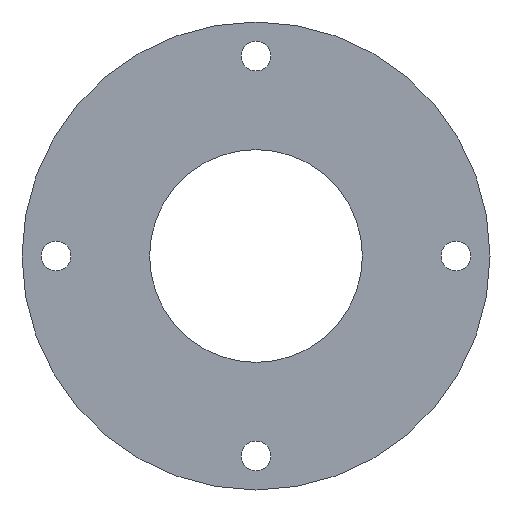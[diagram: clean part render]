
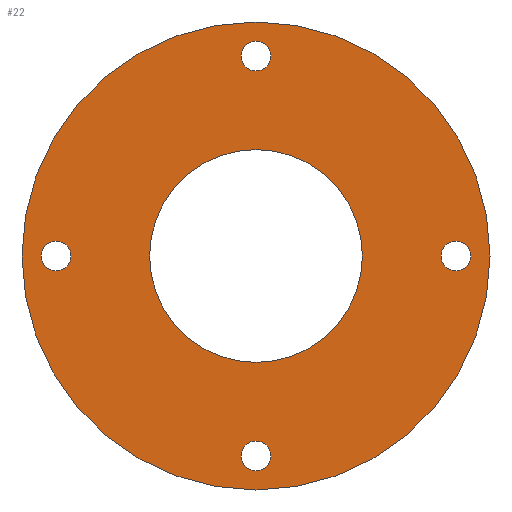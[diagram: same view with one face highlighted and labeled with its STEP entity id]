
A CAD part, left-side view. The second image highlights one B-rep face of the part: STEP entity #22.
In plain terms, the highlighted planar face has unit normal (-1, 0, 0).
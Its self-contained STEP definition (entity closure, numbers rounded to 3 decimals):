
#12 = EDGE_CURVE ( 'NONE', #667, #710, #207, .T. ) ;
#13 = EDGE_LOOP ( 'NONE', ( #20, #695 ) ) ;
#15 = EDGE_LOOP ( 'NONE', ( #717, #700 ) ) ;
#16 = EDGE_CURVE ( 'NONE', #644, #655, #155, .T. ) ;
#17 = EDGE_CURVE ( 'NONE', #713, #714, #193, .T. ) ;
#20 = ORIENTED_EDGE ( 'NONE', *, *, #12, .T. ) ;
#22 = ADVANCED_FACE ( 'NONE', ( #201, #206, #189, #196, #188, #187 ), #211, .F. ) ;
#23 = ORIENTED_EDGE ( 'NONE', *, *, #703, .T. ) ;
#39 = ORIENTED_EDGE ( 'NONE', *, *, #16, .T. ) ;
#41 = EDGE_LOOP ( 'NONE', ( #39, #23 ) ) ;
#66 = EDGE_CURVE ( 'NONE', #714, #713, #258, .T. ) ;
#67 = ORIENTED_EDGE ( 'NONE', *, *, #17, .F. ) ;
#68 = ORIENTED_EDGE ( 'NONE', *, *, #69, .T. ) ;
#69 = EDGE_CURVE ( 'NONE', #729, #726, #301, .T. ) ;
#79 = VERTEX_POINT ( 'NONE', #283 ) ;
#87 = EDGE_CURVE ( 'NONE', #88, #89, #276, .T. ) ;
#88 = VERTEX_POINT ( 'NONE', #327 ) ;
#89 = VERTEX_POINT ( 'NONE', #282 ) ;
#92 = VERTEX_POINT ( 'NONE', #328 ) ;
#93 = EDGE_CURVE ( 'NONE', #92, #79, #321, .T. ) ;
#101 = CIRCLE ( 'NONE', #136, 3.5 ) ;
#105 = DIRECTION ( 'NONE',  ( 0., 0., -1. ) ) ;
#106 = DIRECTION ( 'NONE',  ( 1., 0., 0. ) ) ;
#107 = CARTESIAN_POINT ( 'NONE',  ( 0., 0., -47. ) ) ;
#136 = AXIS2_PLACEMENT_3D ( 'NONE', #107, #106, #105 ) ;
#143 = EDGE_CURVE ( 'NONE', #710, #667, #382, .T. ) ;
#155 = CIRCLE ( 'NONE', #199, 3.5 ) ;
#166 = DIRECTION ( 'NONE',  ( 1., 0., 0. ) ) ;
#167 = CARTESIAN_POINT ( 'NONE',  ( 0., 47., 0. ) ) ;
#175 = DIRECTION ( 'NONE',  ( 0., 0., -1. ) ) ;
#182 = CARTESIAN_POINT ( 'NONE',  ( 0., 55., 0. ) ) ;
#187 = FACE_OUTER_BOUND ( 'NONE', #692, .T. ) ;
#188 = FACE_BOUND ( 'NONE', #696, .T. ) ;
#189 = FACE_BOUND ( 'NONE', #15, .T. ) ;
#190 = DIRECTION ( 'NONE',  ( 0., 0., 1. ) ) ;
#191 = DIRECTION ( 'NONE',  ( -1., 0., 0. ) ) ;
#192 = AXIS2_PLACEMENT_3D ( 'NONE', #210, #191, #190 ) ;
#193 = CIRCLE ( 'NONE', #192, 25. ) ;
#194 = AXIS2_PLACEMENT_3D ( 'NONE', #182, #166, #175 ) ;
#196 = FACE_BOUND ( 'NONE', #689, .T. ) ;
#197 = DIRECTION ( 'NONE',  ( 0., 0., -1. ) ) ;
#198 = DIRECTION ( 'NONE',  ( 1., 0., 0. ) ) ;
#199 = AXIS2_PLACEMENT_3D ( 'NONE', #167, #198, #197 ) ;
#201 = FACE_BOUND ( 'NONE', #41, .T. ) ;
#202 = DIRECTION ( 'NONE',  ( 0., 0., -1. ) ) ;
#203 = DIRECTION ( 'NONE',  ( 1., 0., 0. ) ) ;
#204 = CARTESIAN_POINT ( 'NONE',  ( 0., 0., 47. ) ) ;
#205 = AXIS2_PLACEMENT_3D ( 'NONE', #204, #203, #202 ) ;
#206 = FACE_BOUND ( 'NONE', #13, .T. ) ;
#207 = CIRCLE ( 'NONE', #205, 3.5 ) ;
#210 = CARTESIAN_POINT ( 'NONE',  ( 0., 0., 0. ) ) ;
#211 = PLANE ( 'NONE',  #194 ) ;
#243 = DIRECTION ( 'NONE',  ( 0., 0., 1. ) ) ;
#244 = DIRECTION ( 'NONE',  ( -1., 0., 0. ) ) ;
#245 = AXIS2_PLACEMENT_3D ( 'NONE', #257, #244, #243 ) ;
#251 = CARTESIAN_POINT ( 'NONE',  ( 0., 0., 0. ) ) ;
#257 = CARTESIAN_POINT ( 'NONE',  ( 0., 0., 0. ) ) ;
#258 = CIRCLE ( 'NONE', #245, 25. ) ;
#276 = CIRCLE ( 'NONE', #326, 3.5 ) ;
#282 = CARTESIAN_POINT ( 'NONE',  ( 0., -47., -3.5 ) ) ;
#283 = CARTESIAN_POINT ( 'NONE',  ( 0., 0., -50.5 ) ) ;
#298 = DIRECTION ( 'NONE',  ( 0., 0., 1. ) ) ;
#299 = DIRECTION ( 'NONE',  ( -1., 0., 0. ) ) ;
#300 = AXIS2_PLACEMENT_3D ( 'NONE', #251, #299, #298 ) ;
#301 = CIRCLE ( 'NONE', #300, 55. ) ;
#313 = DIRECTION ( 'NONE',  ( 0., 0., -1. ) ) ;
#314 = DIRECTION ( 'NONE',  ( 1., 0., 0. ) ) ;
#315 = CARTESIAN_POINT ( 'NONE',  ( 0., 0., -47. ) ) ;
#316 = AXIS2_PLACEMENT_3D ( 'NONE', #315, #314, #313 ) ;
#321 = CIRCLE ( 'NONE', #316, 3.5 ) ;
#323 = DIRECTION ( 'NONE',  ( 0., 0., -1. ) ) ;
#324 = DIRECTION ( 'NONE',  ( 1., 0., 0. ) ) ;
#325 = CARTESIAN_POINT ( 'NONE',  ( 0., -47., 0. ) ) ;
#326 = AXIS2_PLACEMENT_3D ( 'NONE', #325, #324, #323 ) ;
#327 = CARTESIAN_POINT ( 'NONE',  ( 0., -47., 3.5 ) ) ;
#328 = CARTESIAN_POINT ( 'NONE',  ( 0., 0., -43.5 ) ) ;
#373 = DIRECTION ( 'NONE',  ( 0., 0., -1. ) ) ;
#374 = DIRECTION ( 'NONE',  ( 1., 0., 0. ) ) ;
#375 = AXIS2_PLACEMENT_3D ( 'NONE', #383, #374, #373 ) ;
#382 = CIRCLE ( 'NONE', #375, 3.5 ) ;
#383 = CARTESIAN_POINT ( 'NONE',  ( 0., 0., 47. ) ) ;
#398 = DIRECTION ( 'NONE',  ( 0., 0., 1. ) ) ;
#399 = DIRECTION ( 'NONE',  ( -1., 0., 0. ) ) ;
#400 = CARTESIAN_POINT ( 'NONE',  ( 0., 0., 0. ) ) ;
#401 = AXIS2_PLACEMENT_3D ( 'NONE', #400, #399, #398 ) ;
#411 = CARTESIAN_POINT ( 'NONE',  ( 0., 0., 25. ) ) ;
#412 = CARTESIAN_POINT ( 'NONE',  ( 0., 0., 50.5 ) ) ;
#413 = CIRCLE ( 'NONE', #401, 55. ) ;
#414 = CARTESIAN_POINT ( 'NONE',  ( 0., 0., -25. ) ) ;
#429 = CARTESIAN_POINT ( 'NONE',  ( 0., 0., -55. ) ) ;
#432 = CARTESIAN_POINT ( 'NONE',  ( 0., 0., 55. ) ) ;
#535 = CIRCLE ( 'NONE', #537, 3.5 ) ;
#536 = CARTESIAN_POINT ( 'NONE',  ( 0., 47., 0. ) ) ;
#537 = AXIS2_PLACEMENT_3D ( 'NONE', #536, #540, #546 ) ;
#540 = DIRECTION ( 'NONE',  ( 1., 0., 0. ) ) ;
#546 = DIRECTION ( 'NONE',  ( 0., 0., -1. ) ) ;
#550 = CARTESIAN_POINT ( 'NONE',  ( 0., 47., -3.5 ) ) ;
#572 = CARTESIAN_POINT ( 'NONE',  ( 0., -47., 0. ) ) ;
#573 = AXIS2_PLACEMENT_3D ( 'NONE', #572, #575, #576 ) ;
#574 = CIRCLE ( 'NONE', #573, 3.5 ) ;
#575 = DIRECTION ( 'NONE',  ( 1., 0., 0. ) ) ;
#576 = DIRECTION ( 'NONE',  ( 0., 0., -1. ) ) ;
#623 = CARTESIAN_POINT ( 'NONE',  ( 0., 0., 43.5 ) ) ;
#625 = CARTESIAN_POINT ( 'NONE',  ( 0., 47., 3.5 ) ) ;
#644 = VERTEX_POINT ( 'NONE', #550 ) ;
#655 = VERTEX_POINT ( 'NONE', #625 ) ;
#667 = VERTEX_POINT ( 'NONE', #623 ) ;
#689 = EDGE_LOOP ( 'NONE', ( #694, #691 ) ) ;
#691 = ORIENTED_EDGE ( 'NONE', *, *, #93, .T. ) ;
#692 = EDGE_LOOP ( 'NONE', ( #693, #68 ) ) ;
#693 = ORIENTED_EDGE ( 'NONE', *, *, #718, .T. ) ;
#694 = ORIENTED_EDGE ( 'NONE', *, *, #699, .T. ) ;
#695 = ORIENTED_EDGE ( 'NONE', *, *, #143, .T. ) ;
#696 = EDGE_LOOP ( 'NONE', ( #698, #67 ) ) ;
#697 = EDGE_CURVE ( 'NONE', #89, #88, #574, .T. ) ;
#698 = ORIENTED_EDGE ( 'NONE', *, *, #66, .F. ) ;
#699 = EDGE_CURVE ( 'NONE', #79, #92, #101, .T. ) ;
#700 = ORIENTED_EDGE ( 'NONE', *, *, #87, .T. ) ;
#703 = EDGE_CURVE ( 'NONE', #655, #644, #535, .T. ) ;
#710 = VERTEX_POINT ( 'NONE', #412 ) ;
#713 = VERTEX_POINT ( 'NONE', #414 ) ;
#714 = VERTEX_POINT ( 'NONE', #411 ) ;
#717 = ORIENTED_EDGE ( 'NONE', *, *, #697, .T. ) ;
#718 = EDGE_CURVE ( 'NONE', #726, #729, #413, .T. ) ;
#726 = VERTEX_POINT ( 'NONE', #432 ) ;
#729 = VERTEX_POINT ( 'NONE', #429 ) ;
